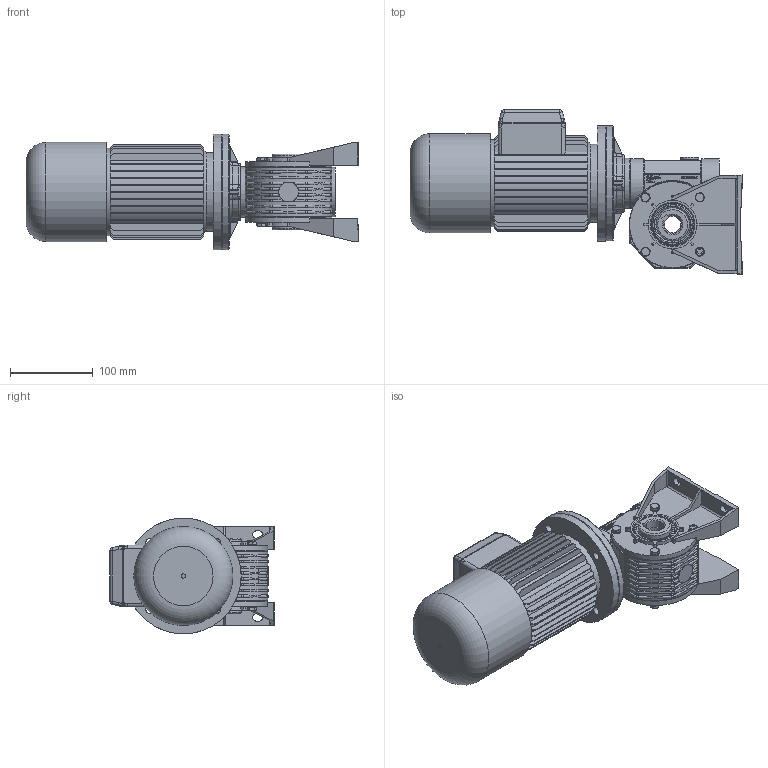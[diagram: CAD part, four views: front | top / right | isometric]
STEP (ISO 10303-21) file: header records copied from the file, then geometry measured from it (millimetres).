
FILE_DESCRIPTION((''),'2;1');
FILE_NAME('Y:\Archivi Inventor\Prog_01\GRAND_10\Figurini\mrv10 VECCHIO\pam63 b5 - B\MRV10 PAM63B5 P3 B.stp','2014-01-15T09:33:11',('tech3'),(''),'Autodesk Inventor 2013','Autodesk Inventor 2013','');
FILE_SCHEMA(('AUTOMOTIVE_DESIGN { 1 0 10303 214 1 1 1 1 }'));
Length unit declared in the file: millimetre
Products named in the file (16): mrv10; V10_PRIMARIO; carcassa mrv10 fig; corona MRV10-f22 fig; RCA_40x7; 40_52_8; Tappo 3_8 GAS_esagn_incsst; Guarnizione 3_8 GAS; DIN EN ISO 4762 M6 x 20; 0101029; DIN EN 24017 M6 x 16; 0101010; 0101028; 0101006; DIN EN ISO 4762 M6 x 16; motori B5 brake 63
Assembly tree (28 placements, depth 3):
  mrv10
    V10_PRIMARIO
      carcassa mrv10 fig
      corona MRV10-f22 fig
      RCA_40x7
      40_52_8  x2
      Tappo 3_8 GAS_esagn_incsst
      Guarnizione 3_8 GAS
      DIN EN ISO 4762 M6 x 20
      0101029  x2
      DIN EN 24017 M6 x 16  x8
      0101010  x2
      0101028
    0101006
    DIN EN ISO 4762 M6 x 16  x4
    motori B5 brake 63
Bounding box: 401.95 x 199 x 140 mm (x, y, z)
Volume: 2796002.2 mm3; surface area: 492165.8 mm2
Topology: 28 solids, 32 shells, 1990 faces, 5009 edges, 3189 vertices
Faces by surface type: plane 1100, cylinder 426, bspline 210, torus 123, cone 113, sphere 18
Full cylindrical faces by diameter (mm): 2 x2, 4.917 x12, 5 x1, 6 x17, 6.5 x20, 8 x1, 8.88 x8, 9.5 x4, 10 x5, 11 x9, 14.95 x1, 16.3 x1, 16.5 x1, 19.981 x2, 22 x2, 24 x1, 35 x1, 35.2 x1, 39.4 x2, 40 x11, 42.5 x1, 42.881 x2, 47.232 x2, 52 x4, 60 x3, 61 x1, 80 x2, 82 x6, 95 x3, 103.5 x2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
Entity records: 55872 total; most frequent: CARTESIAN_POINT 15921, ORIENTED_EDGE 8276, DIRECTION 7574, EDGE_CURVE 4138, VERTEX_POINT 2730, AXIS2_PLACEMENT_3D 2606, VECTOR 2362, LINE 2362
